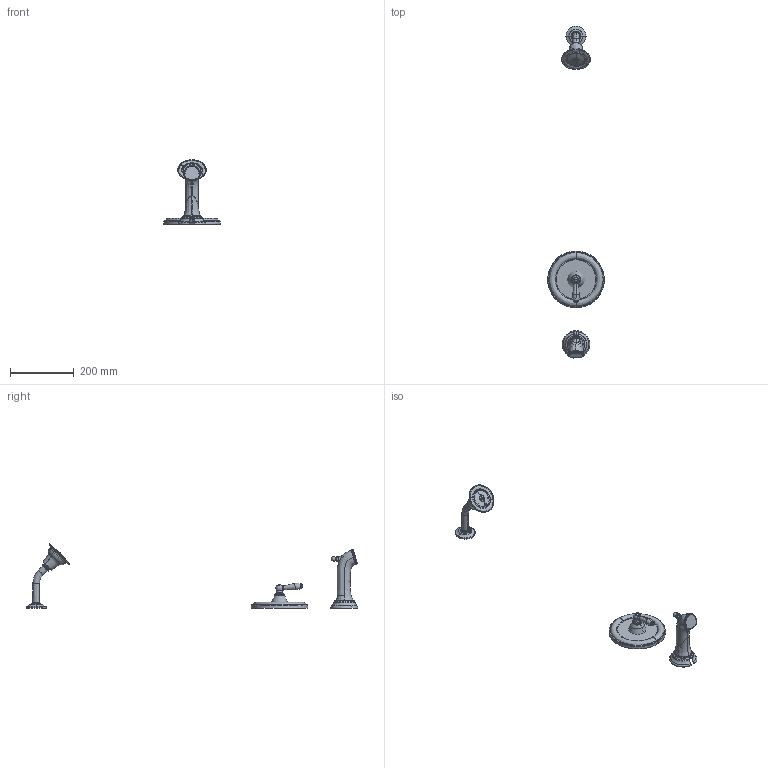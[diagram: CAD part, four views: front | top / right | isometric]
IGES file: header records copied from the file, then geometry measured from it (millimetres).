
Start section:  PTC IGES file: sku_t2153.igs
Global section: file name: sku_t2153.igs; native system: Pro/ENGINEER by Parametric Technology Corporation; preprocessor: 2006460; author: 9dutterb; organization: Unknown; date: 20071207.082945; units: inch
Bounding box: 177.38 x 1039.36 x 201.54 mm (x, y, z)
Surface area: 222158.9 mm2 (no closed solid volume)
Topology: 0 solids, 0 shells, 335 faces, 1946 edges, 1922 vertices
Faces by surface type: bspline 168, revolution 167
